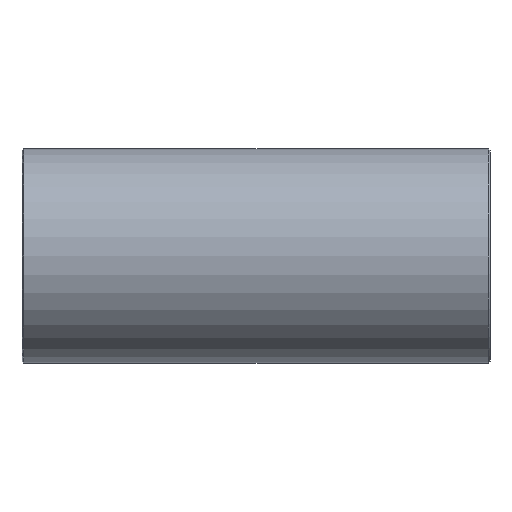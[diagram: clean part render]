
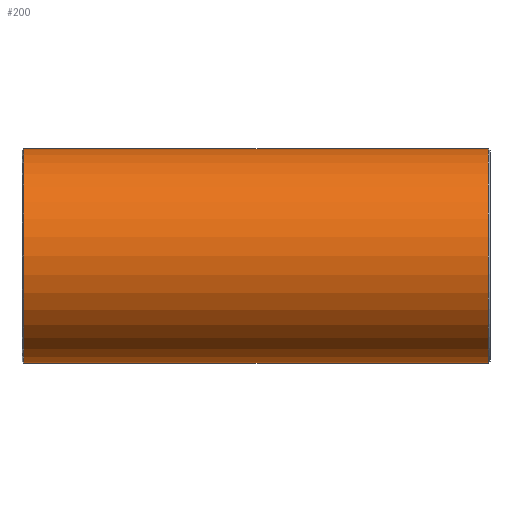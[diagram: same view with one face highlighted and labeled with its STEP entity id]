
A CAD part, front view. The second image highlights one B-rep face of the part: STEP entity #200.
In plain terms, the highlighted cylindrical face has radius 12.7 mm (diameter 25.4 mm), a full revolution.
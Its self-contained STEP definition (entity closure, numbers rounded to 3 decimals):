
#73=CARTESIAN_POINT('',(27.5,12.7,0.));
#74=VERTEX_POINT('',#73);
#75=CARTESIAN_POINT('',(27.5,0.0,0.0));
#76=DIRECTION('',(1.0,0.0,0.0));
#77=DIRECTION('',(0.0,-1.0,0.0));
#78=AXIS2_PLACEMENT_3D('',#75,#76,#77);
#79=CIRCLE('',#78,12.7);
#80=EDGE_CURVE('',#74,#74,#79,.T.);
#116=CARTESIAN_POINT('',(0.,0.0,0.0));
#117=DIRECTION('',(1.0,0.0,0.0));
#118=DIRECTION('',(0.0,1.0,0.0));
#119=AXIS2_PLACEMENT_3D('',#116,#117,#118);
#120=CYLINDRICAL_SURFACE('',#119,12.7);
#121=CARTESIAN_POINT('',(-27.5,12.7,0.));
#122=VERTEX_POINT('',#121);
#123=CARTESIAN_POINT('',(-27.5,0.0,0.0));
#124=DIRECTION('',(-1.0,0.0,0.0));
#125=DIRECTION('',(0.0,-1.0,0.0));
#126=AXIS2_PLACEMENT_3D('',#123,#124,#125);
#127=CIRCLE('',#126,12.7);
#128=EDGE_CURVE('',#122,#122,#127,.T.);
#129=ORIENTED_EDGE('',*,*,#128,.F.);
#130=EDGE_LOOP('',(#129));
#131=FACE_OUTER_BOUND('',#130,.T.);
#132=CARTESIAN_POINT('',(0.,5.905,11.244));
#133=VERTEX_POINT('',#132);
#134=CARTESIAN_POINT('',(0.,5.904,11.244));
#135=CARTESIAN_POINT('',(0.,5.904,11.244));
#136=CARTESIAN_POINT('',(0.,5.904,11.244));
#137=CARTESIAN_POINT('',(0.,5.904,11.244));
#138=CARTESIAN_POINT('',(0.562,5.904,11.244));
#139=CARTESIAN_POINT('',(1.685,6.013,11.188));
#140=CARTESIAN_POINT('',(3.279,6.441,10.951));
#141=CARTESIAN_POINT('',(4.744,7.02,10.592));
#142=CARTESIAN_POINT('',(6.565,7.908,9.966));
#143=CARTESIAN_POINT('',(8.209,8.872,9.132));
#144=CARTESIAN_POINT('',(9.49,9.682,8.233));
#145=CARTESIAN_POINT('',(10.181,10.133,7.663));
#146=CARTESIAN_POINT('',(10.729,10.496,7.161));
#147=CARTESIAN_POINT('',(11.295,10.877,6.571));
#148=CARTESIAN_POINT('',(12.046,11.392,5.657));
#149=CARTESIAN_POINT('',(12.696,11.846,4.643));
#150=CARTESIAN_POINT('',(13.206,12.205,3.545));
#151=CARTESIAN_POINT('',(13.612,12.494,2.411));
#152=CARTESIAN_POINT('',(13.854,12.667,1.214));
#153=CARTESIAN_POINT('',(13.915,12.711,0.001));
#154=CARTESIAN_POINT('',(13.854,12.667,-1.217));
#155=CARTESIAN_POINT('',(13.553,12.452,-2.705));
#156=CARTESIAN_POINT('',(12.856,11.957,-4.392));
#157=CARTESIAN_POINT('',(11.894,11.285,-5.898));
#158=CARTESIAN_POINT('',(10.899,10.608,-7.015));
#159=CARTESIAN_POINT('',(10.013,10.021,-7.812));
#160=CARTESIAN_POINT('',(8.61,9.117,-8.908));
#161=CARTESIAN_POINT('',(7.,8.138,-9.789));
#162=CARTESIAN_POINT('',(5.21,7.246,-10.435));
#163=CARTESIAN_POINT('',(3.948,6.687,-10.805));
#164=CARTESIAN_POINT('',(2.585,6.221,-11.075));
#165=CARTESIAN_POINT('',(1.129,5.952,-11.219));
#166=CARTESIAN_POINT('',(0.002,5.881,-11.256));
#167=CARTESIAN_POINT('',(-1.122,5.951,-11.22));
#168=CARTESIAN_POINT('',(-2.583,6.22,-11.075));
#169=CARTESIAN_POINT('',(-4.275,6.799,-10.741));
#170=CARTESIAN_POINT('',(-6.135,7.688,-10.131));
#171=CARTESIAN_POINT('',(-7.801,8.628,-9.349));
#172=CARTESIAN_POINT('',(-9.336,9.578,-8.38));
#173=CARTESIAN_POINT('',(-10.702,10.474,-7.235));
#174=CARTESIAN_POINT('',(-11.758,11.193,-6.052));
#175=CARTESIAN_POINT('',(-12.54,11.736,-4.895));
#176=CARTESIAN_POINT('',(-13.092,12.125,-3.836));
#177=CARTESIAN_POINT('',(-13.592,12.479,-2.511));
#178=CARTESIAN_POINT('',(-13.914,12.71,-0.921));
#179=CARTESIAN_POINT('',(-13.916,12.712,0.913));
#180=CARTESIAN_POINT('',(-13.551,12.45,2.707));
#181=CARTESIAN_POINT('',(-12.863,11.962,4.379));
#182=CARTESIAN_POINT('',(-11.887,11.281,5.908));
#183=CARTESIAN_POINT('',(-10.508,10.342,7.452));
#184=CARTESIAN_POINT('',(-8.967,9.337,8.655));
#185=CARTESIAN_POINT('',(-7.377,8.385,9.553));
#186=CARTESIAN_POINT('',(-6.111,7.686,10.122));
#187=CARTESIAN_POINT('',(-4.743,7.02,10.592));
#188=CARTESIAN_POINT('',(-3.279,6.441,10.951));
#189=CARTESIAN_POINT('',(-1.686,6.013,11.188));
#190=CARTESIAN_POINT('',(-0.562,5.904,11.244));
#191=CARTESIAN_POINT('',(0.,5.904,11.244));
#192=B_SPLINE_CURVE_WITH_KNOTS('',3,(#134,#135,#136,#137,#138,#139,#140,#141,#142,#143,#144,#145,#146,#147,#148,#149,#150,#151,#152,#153,#154,#155,#156,#157,#158,#159,#160,#161,#162,#163,#164,#165,#166,#167,#168,#169,#170,#171,#172,#173,#174,#175,#176,#177,#178,#179,#180,#181,#182,#183,#184,#185,#186,#187,#188,#189,#190,#191),.UNSPECIFIED.,.T.,.U.,(4,3,1,1,1,1,1,1,1,1,1,1,1,1,1,1,1,1,1,1,1,1,1,1,1,1,1,1,1,1,1,1,1,1,1,1,1,1,1,1,1,1,1,1,1,1,1,1,1,1,1,1,1,4),(-7.183,-7.183,-7.055,-6.927,-6.799,-6.67,-6.414,-6.285,-6.221,-6.157,-6.072,-5.986,-5.815,-5.73,-5.644,-5.473,-5.388,-5.302,-5.131,-4.96,-4.789,-4.618,-4.532,-4.447,-4.105,-4.019,-3.934,-3.763,-3.677,-3.592,-3.506,-3.421,-3.25,-3.079,-2.908,-2.737,-2.566,-2.394,-2.28,-2.166,-2.052,-1.881,-1.71,-1.539,-1.368,-1.197,-1.026,-0.77,-0.641,-0.513,-0.385,-0.257,-0.128,0.),.UNSPECIFIED.);
#193=EDGE_CURVE('',#133,#133,#192,.T.);
#194=ORIENTED_EDGE('',*,*,#193,.F.);
#195=EDGE_LOOP('',(#194));
#196=FACE_BOUND('',#195,.T.);
#197=ORIENTED_EDGE('',*,*,#80,.F.);
#198=EDGE_LOOP('',(#197));
#199=FACE_BOUND('',#198,.T.);
#200=ADVANCED_FACE('',(#131,#196,#199),#120,.T.);
